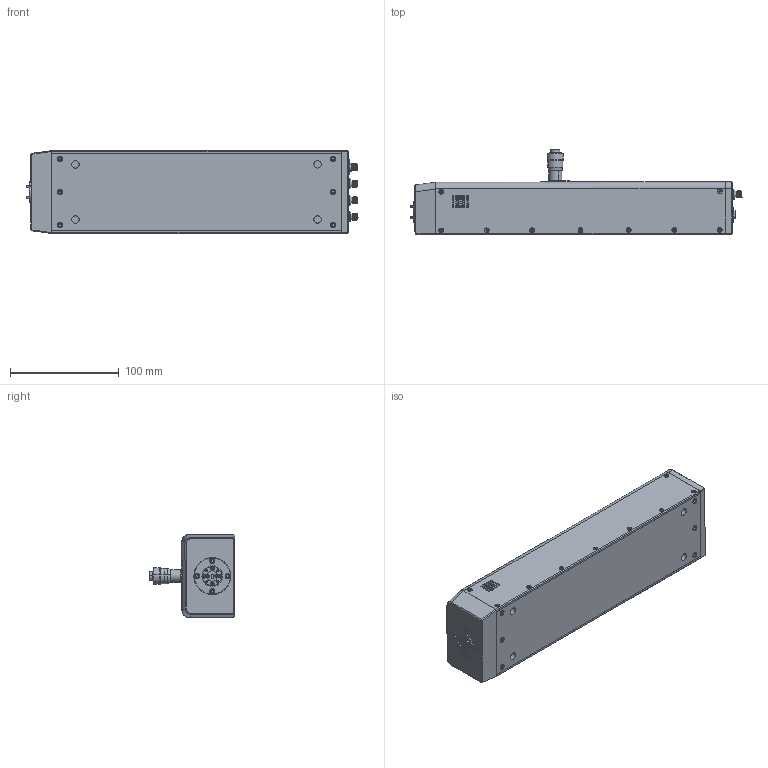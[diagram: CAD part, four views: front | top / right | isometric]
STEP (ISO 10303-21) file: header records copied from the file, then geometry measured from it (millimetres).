
FILE_DESCRIPTION (( 'STEP AP214' ), '1' );
FILE_NAME ('TO-SV-A-M_Mountable, Defeatured.STEP', '2023-06-29T18:39:51', ( '' ), ( '' ), 'SwSTEP 2.0', 'SolidWorks 2021', '' );
FILE_SCHEMA (( 'AUTOMOTIVE_DESIGN' ));
Length unit declared in the file: inch
Products named in the file (1): TO-SV-A-M_Mountable, Defeatured
Bounding box: 305.75 x 78.88 x 76.39 mm (x, y, z)
Volume: 1067899.4 mm3; surface area: 148587.4 mm2
Topology: 33 solids, 50 shells, 1952 faces, 4690 edges, 2929 vertices
Faces by surface type: plane 829, cylinder 658, cone 434, bspline 23, torus 8
Entity records: 90563 total; most frequent: CARTESIAN_POINT 21230, DIRECTION 9321, ORIENTED_EDGE 9188, EDGE_CURVE 4594, AXIS2_PLACEMENT_3D 3608, VERTEX_POINT 2929, EDGE_LOOP 2209, VECTOR 2105
